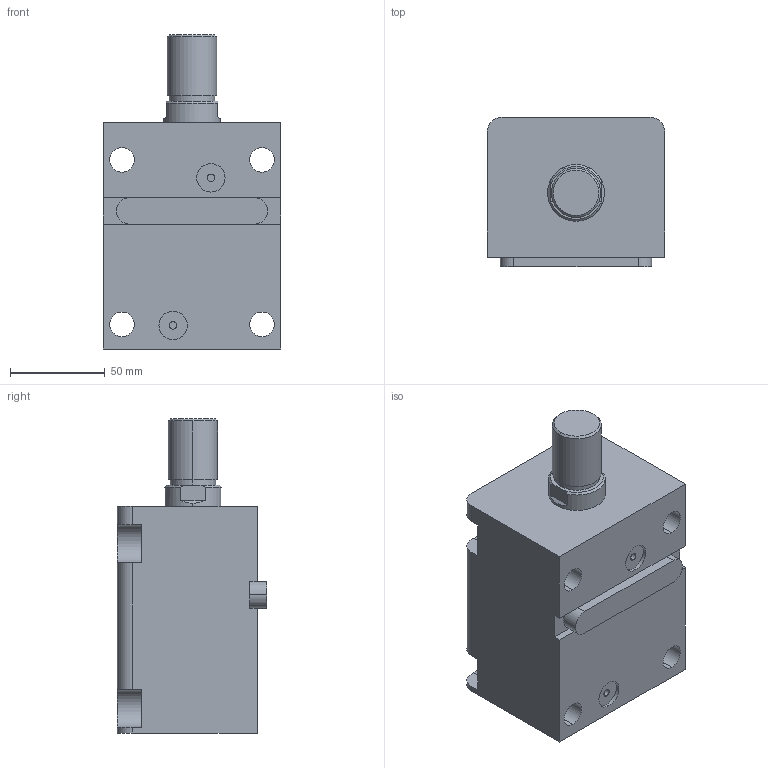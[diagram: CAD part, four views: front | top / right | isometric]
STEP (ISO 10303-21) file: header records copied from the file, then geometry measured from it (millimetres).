
FILE_DESCRIPTION (( 'STEP AP203' ), '1' );
FILE_NAME ('HTB-LAM50-60W.STEP', '2023-03-20T01:06:40', ( '微软用户' ), ( '微软中国' ), 'SwSTEP 2.0', 'SolidWorks 2012', '' );
FILE_SCHEMA (( 'CONFIG_CONTROL_DESIGN' ));
Length unit declared in the file: millimetre
Products named in the file (4): HTB-LAM50-60W; HTB-LWM50-瑩; HTB-LAM50-60W活塞杆; HTB-LAM50-60掛极
Assembly tree (3 placements, depth 2):
  HTB-LAM50-60W
    HTB-LAM50-60掛极
    HTB-LAM50-60W活塞杆
    HTB-LWM50-瑩
Bounding box: 94 x 79 x 166 mm (x, y, z)
Volume: 735320.6 mm3; surface area: 106195.5 mm2
Topology: 3 solids, 3 shells, 90 faces, 219 edges, 144 vertices
Faces by surface type: cylinder 41, plane 41, cone 4, torus 4
Entity records: 3107 total; most frequent: DIRECTION 497, CARTESIAN_POINT 487, ORIENTED_EDGE 438, EDGE_CURVE 219, AXIS2_PLACEMENT_3D 190, VERTEX_POINT 144, VECTOR 117, LINE 117
